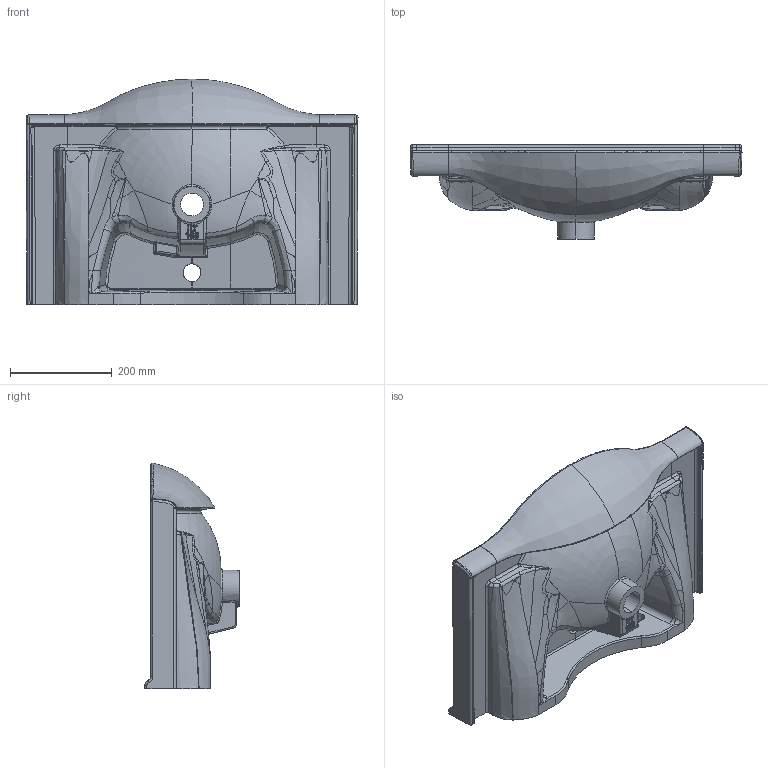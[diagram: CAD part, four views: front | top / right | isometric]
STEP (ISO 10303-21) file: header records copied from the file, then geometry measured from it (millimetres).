
FILE_DESCRIPTION (( 'STEP AP203' ), '1' );
FILE_NAME ('ET165.STEP', '2022-05-10T12:36:35', ( '' ), ( '' ), 'SwSTEP 2.0', 'SolidWorks 2021', '' );
FILE_SCHEMA (( 'CONFIG_CONTROL_DESIGN' ));
Products named in the file (1): ET165
Bounding box: 653.59 x 186 x 444.21 mm (x, y, z)
Volume: 12160554.6 mm3; surface area: 869740.2 mm2
Topology: 2 solids, 2 shells, 842 faces, 2091 edges, 1230 vertices
Faces by surface type: bspline 673, cylinder 62, sphere 54, plane 53
Entity records: 233737 total; most frequent: CARTESIAN_POINT 219880, ORIENTED_EDGE 4124, EDGE_CURVE 2062, B_SPLINE_CURVE_WITH_KNOTS 1424, VERTEX_POINT 1230, DIRECTION 1027, EDGE_LOOP 858, FACE_OUTER_BOUND 842
